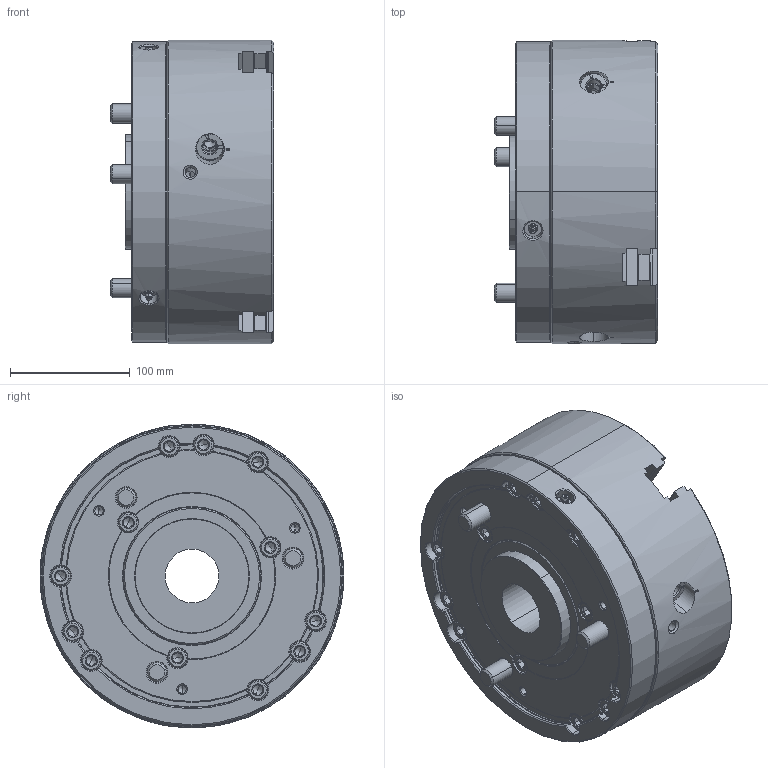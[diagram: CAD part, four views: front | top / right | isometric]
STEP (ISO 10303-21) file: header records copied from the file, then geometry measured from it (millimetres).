
FILE_DESCRIPTION (( 'STEP AP214' ), '1' );
FILE_NAME ('QJR10-00_OC.STEP', '2025-04-15T06:17:40', ( '' ), ( '' ), 'SwSTEP 2.0', 'SolidWorks 2022', '' );
FILE_SCHEMA (( 'AUTOMOTIVE_DESIGN' ));
Length unit declared in the file: millimetre
Products named in the file (3): Copy of 61P804777^QJR10-00_61P263142; QJR10-00_OC; OC^QJR10-00_61P263142
Assembly tree (2 placements, depth 2):
  QJR10-00_OC
    Copy of 61P804777^QJR10-00_61P263142
    OC^QJR10-00_61P263142
Bounding box: 137 x 254 x 254 mm (x, y, z)
Volume: 5030541.5 mm3; surface area: 372388.2 mm2
Topology: 2 solids, 24 shells, 1685 faces, 4335 edges, 2741 vertices
Faces by surface type: plane 692, cone 443, cylinder 337, bspline 159, torus 48, sphere 6
Entity records: 66889 total; most frequent: CARTESIAN_POINT 27214, ORIENTED_EDGE 8518, DIRECTION 7590, EDGE_CURVE 4259, AXIS2_PLACEMENT_3D 2816, VERTEX_POINT 2741, LINE 1958, VECTOR 1958
